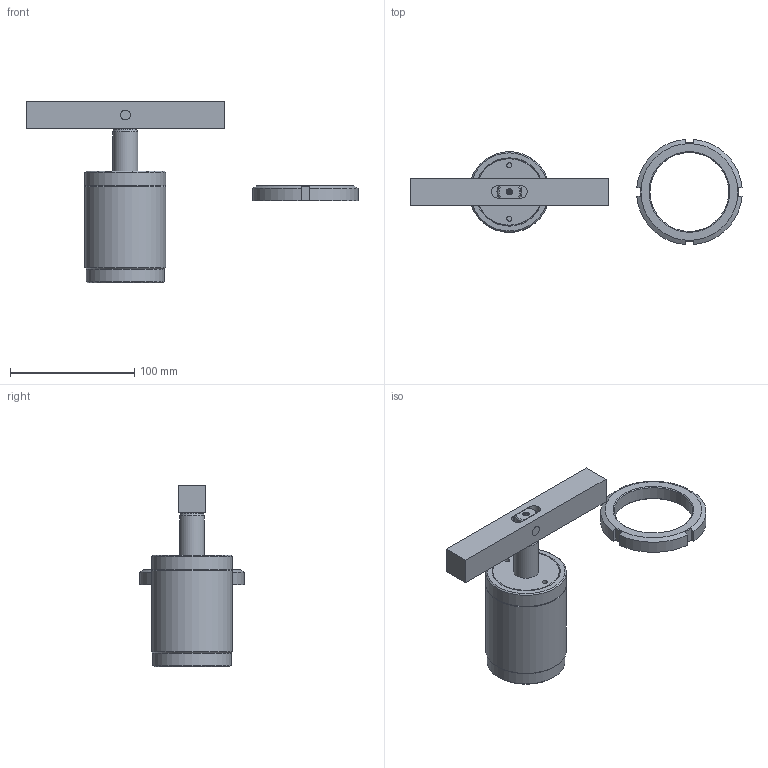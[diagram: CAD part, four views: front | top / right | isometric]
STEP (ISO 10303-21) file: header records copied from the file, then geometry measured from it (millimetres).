
FILE_DESCRIPTION(/* description */ ('Unknown'),/* implementation_level */ '2;1');
FILE_NAME(/* name */ 'ASC-TB50D-B',/* time_stamp */ '2022-08-26T02:42:05+08:00',/* author */ ('Unknown'),/* organization */ ('Unknown'),/* preprocessor_version */ 'ST-DEVELOPER v16.7',/* originating_system */ 'DEX',/* authorisation */ $);
FILE_SCHEMA (('AUTOMOTIVE_DESIGN {1 0 10303 214 3 1 1}'));
Length unit declared in the file: millimetre
Products named in the file (6): ASC-TB50D-B; ASC-5002-D-AXLE CENTRE; ASC-50D-B; ASC-5002-D-FIXED PIN; ASC-TB50D-CYLINDER; ASC-TB50-Nut
Assembly tree (5 placements, depth 2):
  ASC-TB50D-B
    ASC-5002-D-AXLE CENTRE
    ASC-50D-B
    ASC-5002-D-FIXED PIN
    ASC-TB50D-CYLINDER
    ASC-TB50-Nut
Bounding box: 267.36 x 84.71 x 146.2 mm (x, y, z)
Volume: 351353.9 mm3; surface area: 75625.2 mm2
Topology: 5 solids, 5 shells, 105 faces, 229 edges, 144 vertices
Faces by surface type: plane 48, cylinder 24, cone 17, bspline 12, torus 4
Full cylindrical faces by diameter (mm): 4.1 x2, 8 x4, 9.147 x2, 20 x2, 50 x2, 63 x1, 63.5 x1, 65 x2
Entity records: 3169 total; most frequent: CARTESIAN_POINT 643, DIRECTION 430, ORIENTED_EDGE 356, AXIS2_PLACEMENT_3D 181, EDGE_CURVE 178, EDGE_LOOP 160, FACE_BOUND 160, VERTEX_POINT 128
